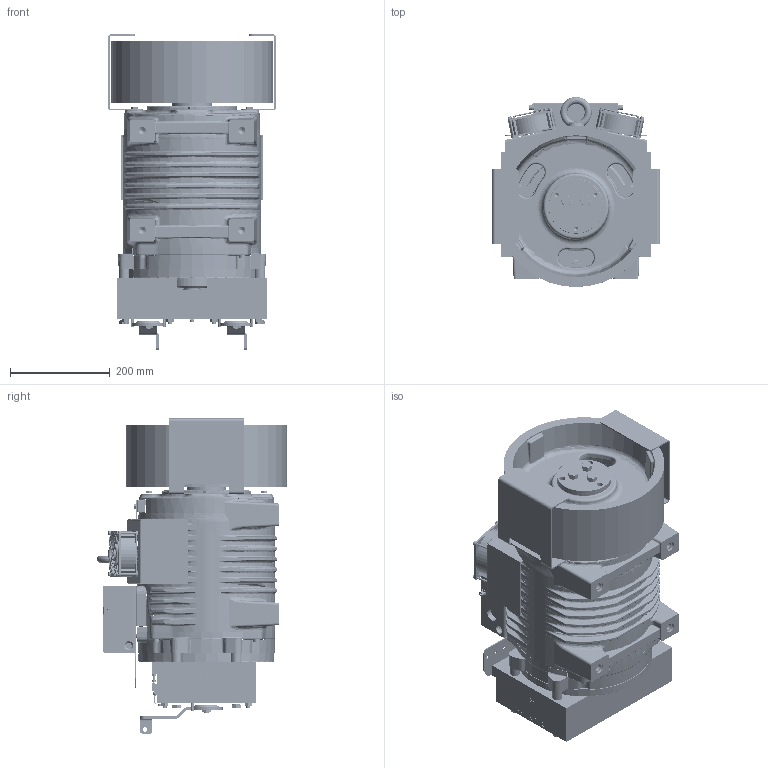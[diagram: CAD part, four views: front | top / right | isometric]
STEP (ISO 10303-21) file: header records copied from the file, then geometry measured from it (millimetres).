
FILE_DESCRIPTION((''),'2;1');
FILE_NAME('00366577_ASM','2023-06-05T12:20:47',('AsgharM'),('Sicor spa'),'CREO PARAMETRIC BY PTC INC, 2022164','CREO PARAMETRIC BY PTC INC, 2022164','');
FILE_SCHEMA(('CONFIG_CONTROL_DESIGN'));
Products named in the file (18): SG30_2023; G__320; _320_125; 00073486; GROWER_M12_GRO0002; TEM12X45_VIT0222; 00246001; M4_FTT_C; 00254619_ASM; 00254091; 00254090; 00254089_ASM; 00257271; 00042420_M4X50; TEM6X12_VIR0184; 00000263; 00257441_ASM; 00366577_ASM
Assembly tree (39 placements, depth 4):
  00366577_ASM
    SG30_2023
    G__320  x2
    _320_125
    00073486
    GROWER_M12_GRO0002  x3
    TEM12X45_VIT0222  x3
    00257441_ASM
      00254619_ASM
        00246001
        M4_FTT_C  x8
      00254089_ASM  x2
        00254091
        00254090
      00257271  x2
      00042420_M4X50  x8
      TEM6X12_VIR0184  x2
      00000263
Bounding box: 337 x 381.99 x 632.52 mm (x, y, z)
Volume: 5168772.9 mm3; surface area: 2092958.6 mm2
Topology: 36 solids, 289 shells, 5131 faces, 17604 edges, 12566 vertices
Faces by surface type: plane 1985, cylinder 1226, bspline 1017, torus 450, cone 419, sphere 34
Entity records: 246316 total; most frequent: CARTESIAN_POINT 116947, ORIENTED_EDGE 25220, DIRECTION 24673, EDGE_CURVE 16128, VERTEX_POINT 11693, VECTOR 9167, LINE 9167, AXIS2_PLACEMENT_3D 7753
